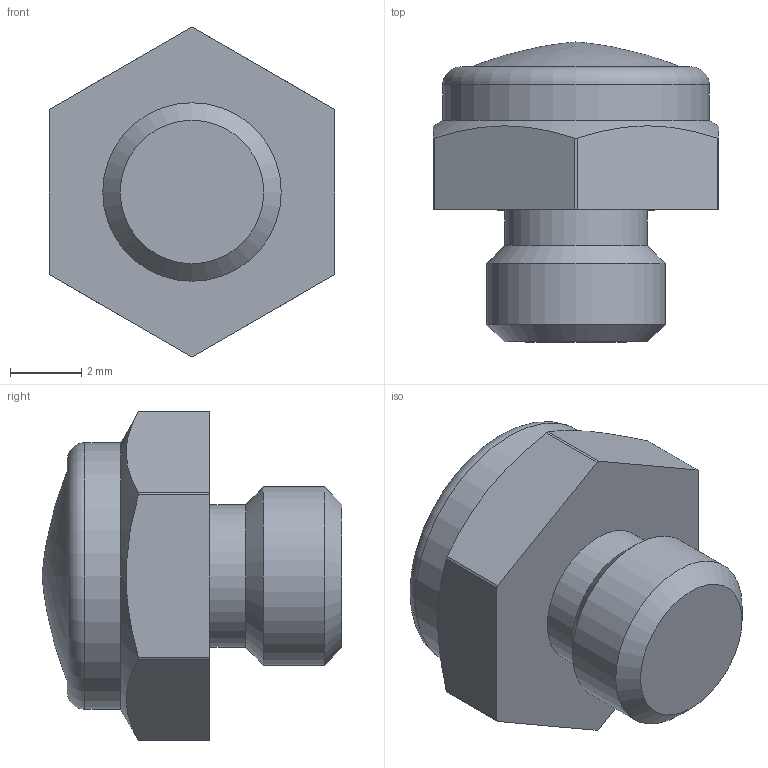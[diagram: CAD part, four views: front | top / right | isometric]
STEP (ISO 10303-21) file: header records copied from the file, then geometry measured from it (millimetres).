
FILE_DESCRIPTION( ( 'STEP AP214' ), '1' );
FILE_NAME( 'p:/temp/worker_5/temp/exporttempdir_5004_97_LE7dm/format_0/W0970530051.stp', '2021-12-09T08:45:54', ( 'License CC BY-ND 4.0' ), ( 'CADENAS' ), ' ', 'PARTsolutions', ' ' );
FILE_SCHEMA( ( 'AUTOMOTIVE_DESIGN { 1 0 10303 214 1 1 1 1 }' ) );
Length unit declared in the file: millimetre
Products named in the file (1): _W0970530051
Bounding box: 8 x 8.4 x 9.2 mm (x, y, z)
Volume: 271.7 mm3; surface area: 264.8 mm2
Topology: 1 solids, 1 shells, 23 faces, 55 edges, 35 vertices
Faces by surface type: plane 9, cylinder 9, cone 3, bspline 1, torus 1
Full cylindrical faces by diameter (mm): 4 x1, 5 x1, 7.468 x1
Entity records: 873 total; most frequent: CARTESIAN_POINT 176, DIRECTION 106, ORIENTED_EDGE 90, EDGE_CURVE 45, AXIS2_PLACEMENT_3D 44, VERTEX_POINT 34, EDGE_LOOP 32, FACE_OUTER_BOUND 27
